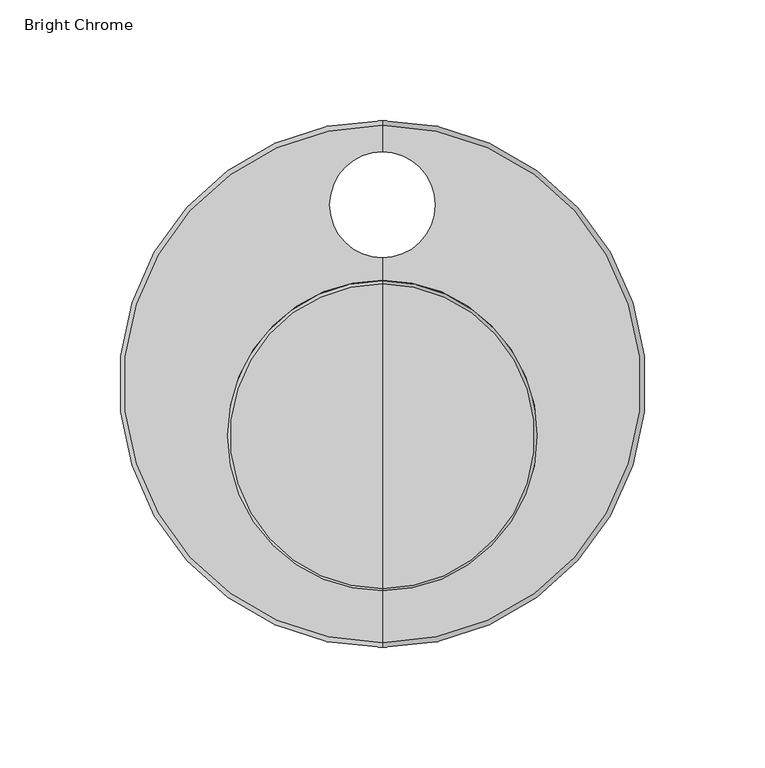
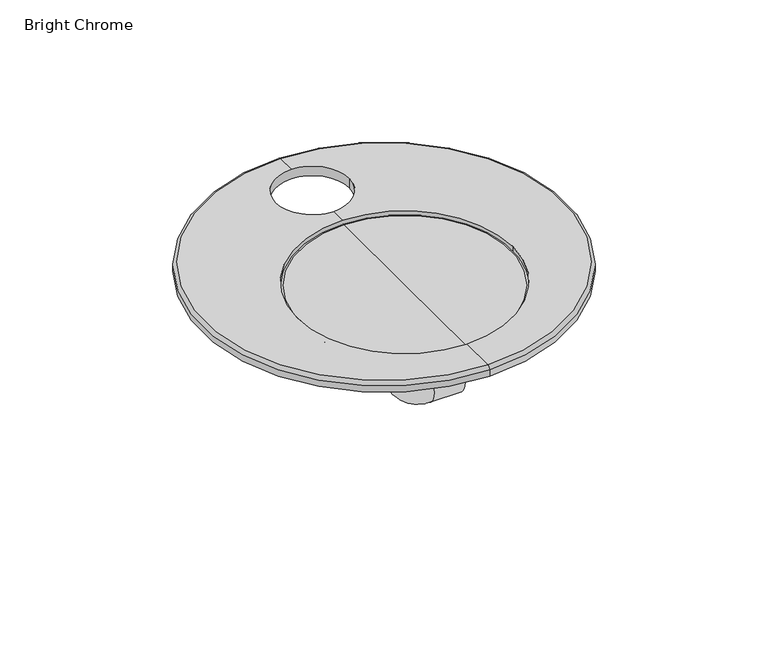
"""IFC4 building model written with IfcOpenShell, lengths in millimetres: flow terminal geometry, z_PlumFixt_Zip_Font : Bright Chrome."""

from ifc_helpers import new_model, si_unit, point, frame, origin, place, context, project, spatial, polyline, circle_curve, ellipse_curve, trimmed, outline, extrude, source, transform, mapped, element, save
from ifc_brep_helpers import plane_surface, cylinder_surface, revolved_surface, advanced_brep


def bright_chrome_f48ec22c(model_context):
    return source(origin(), model_context, "Body", "SolidModel", [
        advanced_brep(
        [(1.0, 122.25, 5.9736354), (1.0, -92.25, 5.9736354), (1.0, -70.83804, 5.9736354), (-63.47, -6.36804, 5.9736354), (1.0, 58.10196, 5.9736354), (1.0, 67.25, 5.9736354), (-21.0, 89.25, 5.9736354), (1.0, 111.25, 5.9736354), (23.0, 89.25, 5.9736354), (65.47, -6.36804, 5.9736354), (1.0, 124.25, 3.9736354), (1.0, -94.25, 3.9736354), (1.0, 124.25, 0.0), (1.0, -94.25, 0.0), (1.0, 111.25, 0.0), (-21.0, 89.25, 0.0), (1.0, 67.25, 0.0), (1.0, 15.0, 0.0), (23.0, 89.25, 0.0), (65.47, -6.36804, 1.5304145), (-63.47, -6.36804, 1.5304145)],
        [
            (0, 1, circle_curve(frame((1.0, 15.0, 5.9736354), z_axis=(0.0, 0.0, 1.0), x_axis=(0.0, 1.0, 0.0)), 107.25)),
            (1, 2),
            (2, 3, circle_curve(frame((1.0, -6.36804, 5.9736354), z_axis=(0.0, 0.0, -1.0), x_axis=(-1.0, 0.0, 0.0)), 64.47)),
            (3, 4, circle_curve(frame((1.0, -6.36804, 5.9736354), z_axis=(0.0, 0.0, -1.0), x_axis=(-1.0, 0.0, 0.0)), 64.47)),
            (4, 5),
            (5, 6, circle_curve(frame((1.0, 89.25, 5.9736354), z_axis=(0.0, 0.0, -1.0), x_axis=(-1.0, 0.0, 0.0)), 22.0)),
            (6, 7, circle_curve(frame((1.0, 89.25, 5.9736354), z_axis=(0.0, 0.0, -1.0), x_axis=(-1.0, 0.0, 0.0)), 22.0)),
            (7, 0),
            (1, 0, circle_curve(frame((1.0, 15.0, 5.9736354), z_axis=(0.0, 0.0, 1.0), x_axis=(0.0, 1.0, 0.0)), 107.25)),
            (7, 8, circle_curve(frame((1.0, 89.25, 5.9736354), z_axis=(0.0, 0.0, -1.0), x_axis=(-1.0, 0.0, 0.0)), 22.0)),
            (8, 5, circle_curve(frame((1.0, 89.25, 5.9736354), z_axis=(0.0, 0.0, -1.0), x_axis=(-1.0, 0.0, 0.0)), 22.0)),
            (4, 9, circle_curve(frame((1.0, -6.36804, 5.9736354), z_axis=(0.0, 0.0, -1.0), x_axis=(-1.0, 0.0, 0.0)), 64.47)),
            (9, 2, circle_curve(frame((1.0, -6.36804, 5.9736354), z_axis=(0.0, 0.0, -1.0), x_axis=(-1.0, 0.0, 0.0)), 64.47)),
            (0, 10, circle_curve(frame((1.0, 122.25, 3.9736354), z_axis=(-1.0, 0.0, 0.0), x_axis=(0.0, 1.0, 0.0)), 2.0)),
            (10, 11, circle_curve(frame((1.0, 15.0, 3.9736354), z_axis=(0.0, 0.0, 1.0), x_axis=(0.0, 1.0, 0.0)), 109.25)),
            (11, 1, circle_curve(frame((1.0, -92.25, 3.9736354), z_axis=(-1.0, 0.0, 0.0), x_axis=(0.0, -1.0, 0.0)), 2.0)),
            (11, 10, circle_curve(frame((1.0, 15.0, 3.9736354), z_axis=(0.0, 0.0, 1.0), x_axis=(0.0, 1.0, 0.0)), 109.25)),
            (10, 12),
            (12, 13, circle_curve(frame((1.0, 15.0, 0.0), z_axis=(0.0, 0.0, 1.0), x_axis=(0.0, 1.0, 0.0)), 109.25)),
            (13, 11),
            (13, 12, circle_curve(frame((1.0, 15.0, 0.0), z_axis=(0.0, 0.0, 1.0), x_axis=(0.0, 1.0, 0.0)), 109.25)),
            (12, 14),
            (14, 15, circle_curve(frame((1.0, 89.25, 0.0), z_axis=(0.0, 0.0, 1.0), x_axis=(-1.0, 0.0, 0.0)), 22.0)),
            (15, 16, circle_curve(frame((1.0, 89.25, 0.0), z_axis=(0.0, 0.0, 1.0), x_axis=(-1.0, 0.0, 0.0)), 22.0)),
            (16, 17),
            (17, 13),
            (16, 18, circle_curve(frame((1.0, 89.25, 0.0), z_axis=(0.0, 0.0, 1.0), x_axis=(-1.0, 0.0, 0.0)), 22.0)),
            (18, 14, circle_curve(frame((1.0, 89.25, 0.0), z_axis=(0.0, 0.0, 1.0), x_axis=(-1.0, 0.0, 0.0)), 22.0)),
            (19, 20, circle_curve(frame((1.0, -6.36804, 1.5304145), z_axis=(0.0, 0.0, 1.0), x_axis=(-1.0, 0.0, 0.0)), 64.47)),
            (20, 19, circle_curve(frame((1.0, -6.36804, 1.5304145), z_axis=(0.0, 0.0, 1.0), x_axis=(-1.0, 0.0, 0.0)), 64.47)),
            (19, 9),
            (3, 20),
            (18, 8),
            (6, 15),
        ],
        [
            plane_surface(frame((1.0, 15.0, 5.9736354), z_axis=(0.0, 0.0, 1.0), x_axis=(0.0, 1.0, 0.0))),
            revolved_surface(trimmed(ellipse_curve(frame((1.0, 122.25, 3.9736354), z_axis=(1.0, 0.0, 0.0), x_axis=(0.0, 1.0, 0.0)), 2.0, 2.0), [point((1.0, 124.25, 3.9736354))], [point((1.0, 122.25, 5.9736354))], True, "CARTESIAN"), (1.0, 15.0, -1.0187212), (0.0, 0.0, 1.0)),
            cylinder_surface(frame((1.0, 15.0, -1.0187212), z_axis=(0.0, 0.0, 1.0), x_axis=(0.0, 1.0, 0.0)), 109.25),
            plane_surface(frame((1.0, 15.0, 0.0), z_axis=(0.0, 0.0, -1.0), x_axis=(0.0, 1.0, 0.0))),
            plane_surface(frame((-63.47, -6.36804, 1.5304145), z_axis=(0.0, 0.0, 1.0), x_axis=(0.0, 1.0, 0.0))),
            revolved_surface(polyline([(-63.47, -6.36804, 5.9736354), (-63.47, -6.36804, 1.5304145)]), (1.0, -6.36804, 1.5304145), (0.0, 0.0, 1.0)),
            revolved_surface(polyline([(-21.0, 89.25, 5.9736354), (-21.0, 89.25, 0.0)]), (1.0, 89.25, -1.8109582), (0.0, 0.0, 1.0)),
        ],
        [
            (0, [[1, 2, 3, 4, 5, 6, 7, 8]]),
            (0, [[9, -8, 10, 11, -5, 12, 13, -2]]),
            (1, [[-1, 14, 15, 16]]),
            (1, [[-9, -16, 17, -14]]),
            (2, [[-15, 18, 19, 20]]),
            (2, [[-17, -20, 21, -18]]),
            (3, [[-19, 22, 23, 24, 25, 26]]),
            (3, [[-21, -26, -25, 27, 28, -22]]),
            (4, [[29, 30]]),
            (5, [[-29, 31, -12, -4, 32]]),
            (5, [[-30, -32, -3, -13, -31]]),
            (6, [[33, -10, -7, 34, -23, -28]]),
            (6, [[-33, -27, -24, -34, -6, -11]]),
        ],
    ),
        advanced_brep(
        [(1.0, -69.9244631, 4.249674), (1.0, 56.520588, 4.249674), (1.0, 56.520588, 1.749674), (1.0, -69.9244631, 1.749674), (1.0, -6.7019376, 1.749674), (1.0, -6.7019376, 4.249674)],
        [
            (0, 1, circle_curve(frame((1.0, -6.7019376, 4.249674), z_axis=(0.0, 0.0, -1.0), x_axis=(0.0, 1.0, 0.0)), 63.2225255)),
            (1, 2, circle_curve(frame((1.0, 56.520588, 2.999674), z_axis=(-1.0, 0.0, 0.0), x_axis=(0.0, 1.0, 0.0)), 1.25)),
            (2, 3, circle_curve(frame((1.0, -6.7019376, 1.749674), z_axis=(0.0, 0.0, 1.0), x_axis=(0.0, 1.0, 0.0)), 63.2225255)),
            (3, 0, circle_curve(frame((1.0, -69.9244631, 2.999674), z_axis=(-1.0, 0.0, 0.0), x_axis=(0.0, -1.0, 0.0)), 1.25)),
            (1, 0, circle_curve(frame((1.0, -6.7019376, 4.249674), z_axis=(0.0, 0.0, -1.0), x_axis=(0.0, 1.0, 0.0)), 63.2225255)),
            (3, 2, circle_curve(frame((1.0, -6.7019376, 1.749674), z_axis=(0.0, 0.0, 1.0), x_axis=(0.0, 1.0, 0.0)), 63.2225255)),
            (2, 4),
            (4, 3),
            (5, 1),
            (0, 5),
        ],
        [
            revolved_surface(trimmed(ellipse_curve(frame((1.0, 56.520588, 2.999674), z_axis=(1.0, 0.0, 0.0), x_axis=(0.0, 1.0, 0.0)), 1.25, 1.25), [point((1.0, 56.520588, 1.749674))], [point((1.0, 56.520588, 4.249674))], True, "CARTESIAN"), (1.0, -6.7019376, 0.0), (0.0, 0.0, 1.0)),
            plane_surface(frame((1.0, -6.7019376, 1.749674), z_axis=(0.0, 0.0, -1.0), x_axis=(0.0, 1.0, 0.0))),
            plane_surface(frame((1.0, -6.7019376, 4.249674), z_axis=(0.0, 0.0, 1.0), x_axis=(0.0, 1.0, 0.0))),
        ],
        [
            (0, [[1, 2, 3, 4]]),
            (0, [[5, -4, 6, -2]]),
            (1, [[-3, 7, 8]]),
            (1, [[-6, -8, -7]]),
            (2, [[9, -1, 10]]),
            (2, [[-10, -5, -9]]),
        ],
    ),
        advanced_brep(
        [(1.0, 17.6082756, -9.3040084), (1.0, -27.6082756, -9.3040084), (1.0, -56.6303223, 0.0), (1.0, 46.6303223, 0.0), (1.0, 16.5094946, -10.3549967), (1.0, -26.5094946, -10.3549967), (1.0, 16.3191004, -11.4347761), (1.0, -26.3191004, -11.4347761), (1.0, 15.3746862, -12.2272337), (1.0, -25.3746862, -12.2272337), (1.0, -5.0, -12.2272337), (1.0, -5.0, 0.0)],
        [
            (0, 1, circle_curve(frame((1.0, -5.0, -9.3040084), z_axis=(0.0, 0.0, 1.0), x_axis=(0.0, -1.0, 0.0)), 22.6082756)),
            (1, 2, circle_curve(frame((1.0, -16.5771103, 75.0218914), z_axis=(-1.0, 0.0, 0.0), x_axis=(0.0, 1.0, 0.0)), 85.0443648)),
            (2, 3, circle_curve(frame((1.0, -5.0, 0.0), z_axis=(0.0, 0.0, -1.0), x_axis=(0.0, -1.0, 0.0)), 51.6303223)),
            (3, 0, circle_curve(frame((1.0, 6.5771103, 75.0218914), z_axis=(-1.0, 0.0, 0.0), x_axis=(0.0, -1.0, 0.0)), 85.0443648)),
            (1, 0, circle_curve(frame((1.0, -5.0, -9.3040084), z_axis=(0.0, 0.0, 1.0), x_axis=(0.0, -1.0, 0.0)), 22.6082756)),
            (3, 2, circle_curve(frame((1.0, -5.0, 0.0), z_axis=(0.0, 0.0, -1.0), x_axis=(0.0, -1.0, 0.0)), 51.6303223)),
            (4, 5, circle_curve(frame((1.0, -5.0, -10.3549967), z_axis=(0.0, 0.0, 1.0), x_axis=(0.0, -1.0, 0.0)), 21.5094946)),
            (5, 1, circle_curve(frame((1.0, -27.774951, -10.5781308), z_axis=(1.0, 0.0, 0.0), x_axis=(0.0, 1.0, 0.0)), 1.2849781)),
            (0, 4, circle_curve(frame((1.0, 17.774951, -10.5781308), z_axis=(1.0, 0.0, 0.0), x_axis=(0.0, -1.0, 0.0)), 1.2849781)),
            (5, 4, circle_curve(frame((1.0, -5.0, -10.3549967), z_axis=(0.0, 0.0, 1.0), x_axis=(0.0, -1.0, 0.0)), 21.5094946)),
            (6, 7, circle_curve(frame((1.0, -5.0, -11.4347761), z_axis=(0.0, 0.0, 1.0), x_axis=(0.0, -1.0, 0.0)), 21.3191004)),
            (7, 5),
            (4, 6),
            (7, 6, circle_curve(frame((1.0, -5.0, -11.4347761), z_axis=(0.0, 0.0, 1.0), x_axis=(0.0, -1.0, 0.0)), 21.3191004)),
            (8, 9, circle_curve(frame((1.0, -5.0, -12.2272337), z_axis=(0.0, 0.0, 1.0), x_axis=(0.0, -1.0, 0.0)), 20.3746862)),
            (9, 7, circle_curve(frame((1.0, -25.3746862, -11.2682504), z_axis=(-1.0, 0.0, 0.0), x_axis=(0.0, 1.0, 0.0)), 0.9589833)),
            (6, 8, circle_curve(frame((1.0, 15.3746862, -11.2682504), z_axis=(-1.0, 0.0, 0.0), x_axis=(0.0, -1.0, 0.0)), 0.9589833)),
            (9, 8, circle_curve(frame((1.0, -5.0, -12.2272337), z_axis=(0.0, 0.0, 1.0), x_axis=(0.0, -1.0, 0.0)), 20.3746862)),
            (10, 9),
            (8, 10),
            (2, 11),
            (11, 3),
        ],
        [
            revolved_surface(trimmed(ellipse_curve(frame((1.0, -16.5771103, 75.0218914), z_axis=(1.0, 0.0, 0.0), x_axis=(0.0, 1.0, 0.0)), 85.0443648, 85.0443648), [point((1.0, -56.6303223, 0.0))], [point((1.0, -27.6082756, -9.3040084))], True, "CARTESIAN"), (1.0, -5.0, 0.0), (0.0, 0.0, -1.0)),
            revolved_surface(trimmed(ellipse_curve(frame((1.0, -27.774951, -10.5781308), z_axis=(-1.0, 0.0, 0.0), x_axis=(0.0, 1.0, 0.0)), 1.2849781, 1.2849781), [point((1.0, -27.6082756, -9.3040084))], [point((1.0, -26.5094946, -10.3549967))], True, "CARTESIAN"), (1.0, -5.0, 0.0), (0.0, 0.0, -1.0)),
            revolved_surface(polyline([(1.0, -26.5094946, -10.3549967), (1.0, -26.3191004, -11.4347761)]), (1.0, -5.0, 0.0), (0.0, 0.0, -1.0)),
            revolved_surface(trimmed(ellipse_curve(frame((1.0, -25.3746862, -11.2682504), z_axis=(1.0, 0.0, 0.0), x_axis=(0.0, 1.0, 0.0)), 0.9589833, 0.9589833), [point((1.0, -26.3191004, -11.4347761))], [point((1.0, -25.3746862, -12.2272337))], True, "CARTESIAN"), (1.0, -5.0, 0.0), (0.0, 0.0, -1.0)),
            plane_surface(frame((1.0, -5.0, -12.2272337), z_axis=(0.0, 0.0, -1.0), x_axis=(0.0, -1.0, 0.0))),
            plane_surface(frame((1.0, -5.0, 0.0), z_axis=(0.0, 0.0, 1.0), x_axis=(0.0, -1.0, 0.0))),
        ],
        [
            (0, [[1, 2, 3, 4]]),
            (0, [[5, -4, 6, -2]]),
            (1, [[7, 8, -1, 9]]),
            (1, [[10, -9, -5, -8]]),
            (2, [[11, 12, -7, 13]]),
            (2, [[14, -13, -10, -12]]),
            (3, [[15, 16, -11, 17]]),
            (3, [[18, -17, -14, -16]]),
            (4, [[19, -15, 20]]),
            (4, [[-20, -18, -19]]),
            (5, [[-3, 21, 22]]),
            (5, [[-6, -22, -21]]),
        ],
    ),
        extrude(outline(polyline([(-8.0700199, 10.0093191), (9.9254696, 10.0093191), (19.0513346, -5.5057892), (9.9254696, -21.0208976), (-8.0700199, -21.0208976), (-17.1958849, -5.5057892), (-8.0700199, 10.0093191)])), frame((0.0, 0.0, -21.18049), z_axis=(0.0, 0.0, 1.0), x_axis=(1.0, 0.0, 0.0)), (0.0, 0.0, 1.0), 9.0),
        advanced_brep(
        [(31.1519186, -5.8906809, -72.6140161), (31.1519186, -5.8906809, -51.1140161), (12.9277249, -5.8906809, -72.6140161), (12.9277249, -5.8906809, -51.1140161), (11.6777249, -5.8906809, -49.8640161), (-9.8222751, -5.8906809, -49.8640161), (-9.8222751, -5.8906809, -21.18049), (11.6777249, -5.8906809, -21.18049)],
        [
            (0, 1, circle_curve(frame((31.1519186, -5.8906809, -61.8640161), z_axis=(1.0, 0.0, 0.0), x_axis=(0.0, 0.0, 1.0)), 10.75)),
            (1, 0, circle_curve(frame((31.1519186, -5.8906809, -61.8640161), z_axis=(1.0, 0.0, 0.0), x_axis=(0.0, 0.0, 1.0)), 10.75)),
            (0, 2),
            (2, 3, circle_curve(frame((12.9277249, -5.8906809, -61.8640161), z_axis=(1.0, 0.0, 0.0), x_axis=(0.0, 0.0, 1.0)), 10.75)),
            (3, 1),
            (3, 2, circle_curve(frame((12.9277249, -5.8906809, -61.8640161), z_axis=(1.0, 0.0, 0.0), x_axis=(0.0, 0.0, 1.0)), 10.75)),
            (4, 3, circle_curve(frame((12.9277249, -5.8906809, -49.8640161), z_axis=(0.0, -1.0, 0.0), x_axis=(0.0, 0.0, -1.0)), 1.25)),
            (2, 5, circle_curve(frame((12.9277249, -5.8906809, -49.8640161), z_axis=(0.0, 1.0, 0.0), x_axis=(0.0, 0.0, -1.0)), 22.75)),
            (5, 4, circle_curve(frame((0.9277249, -5.8906809, -49.8640161), z_axis=(0.0, 0.0, -1.0), x_axis=(1.0, 0.0, 0.0)), 10.75)),
            (4, 5, circle_curve(frame((0.9277249, -5.8906809, -49.8640161), z_axis=(0.0, 0.0, -1.0), x_axis=(1.0, 0.0, 0.0)), 10.75)),
            (6, 7, circle_curve(frame((0.9277249, -5.8906809, -21.18049), z_axis=(0.0, 0.0, 1.0), x_axis=(1.0, 0.0, 0.0)), 10.75)),
            (7, 6, circle_curve(frame((0.9277249, -5.8906809, -21.18049), z_axis=(0.0, 0.0, 1.0), x_axis=(1.0, 0.0, 0.0)), 10.75)),
            (5, 6),
            (7, 4),
        ],
        [
            plane_surface(frame((31.1519186, 15.0, -61.8640161), z_axis=(1.0, 0.0, 0.0), x_axis=(0.0, 1.0, 0.0))),
            cylinder_surface(frame((31.1519186, -5.8906809, -61.8640161), z_axis=(1.0, 0.0, 0.0), x_axis=(0.0, 0.0, 1.0)), 10.75),
            revolved_surface(trimmed(ellipse_curve(frame((12.9277249, -5.8906809, -61.8640161), z_axis=(1.0, 0.0, 0.0), x_axis=(0.0, 0.0, 1.0)), 10.75, 10.75), [point((12.9277249, -5.8906809, -72.6140161))], [point((12.9277249, -5.8906809, -51.1140161))], True, "CARTESIAN"), (12.9277249, 15.0, -49.8640161), (0.0, 1.0, 0.0)),
            revolved_surface(trimmed(ellipse_curve(frame((12.9277249, -5.8906809, -61.8640161), z_axis=(1.0, 0.0, 0.0), x_axis=(0.0, 0.0, 1.0)), 10.75, 10.75), [point((12.9277249, -5.8906809, -51.1140161))], [point((12.9277249, -5.8906809, -72.6140161))], True, "CARTESIAN"), (12.9277249, 15.0, -49.8640161), (0.0, 1.0, 0.0)),
            plane_surface(frame((0.9277249, 15.0, -21.18049), z_axis=(0.0, 0.0, 1.0), x_axis=(0.0, 1.0, 0.0))),
            cylinder_surface(frame((0.9277249, -5.8906809, -49.8640161), z_axis=(0.0, 0.0, -1.0), x_axis=(1.0, 0.0, 0.0)), 10.75),
        ],
        [
            (0, [[1, 2]]),
            (1, [[-1, 3, 4, 5]]),
            (1, [[-2, -5, 6, -3]]),
            (2, [[7, -4, 8, 9]]),
            (3, [[-8, -6, -7, 10]]),
            (4, [[11, 12]]),
            (5, [[-9, 13, -12, 14]]),
            (5, [[-10, -14, -11, -13]]),
        ],
    ),
    ])


if __name__ == "__main__":
    model = new_model("IFC4")
    model_context = context("Model", 3, world=origin())
    ifc_project = project(units=[si_unit("LENGTHUNIT", "METRE", prefix="MILLI")], contexts=[model_context])
    site = spatial("IfcSite", under=ifc_project)
    building = spatial("IfcBuilding", under=site)
    placement = place(None, origin())
    bright_chrome_shape = bright_chrome_f48ec22c(model_context)
    element("IfcFlowTerminal", 1, ObjectType="z_PlumFixt_Zip_Font : Bright Chrome", at=placement, inside=building, context=model_context, shape_type="MappedRepresentation", body=[
        mapped(bright_chrome_shape, transform((0.0, 0.0, 0.0), x_axis=(1.0, 0.0, 0.0), y_axis=(0.0, 1.0, 0.0), z_axis=(0.0, 0.0, 1.0))),
    ])
    save(model, "model.ifc")
